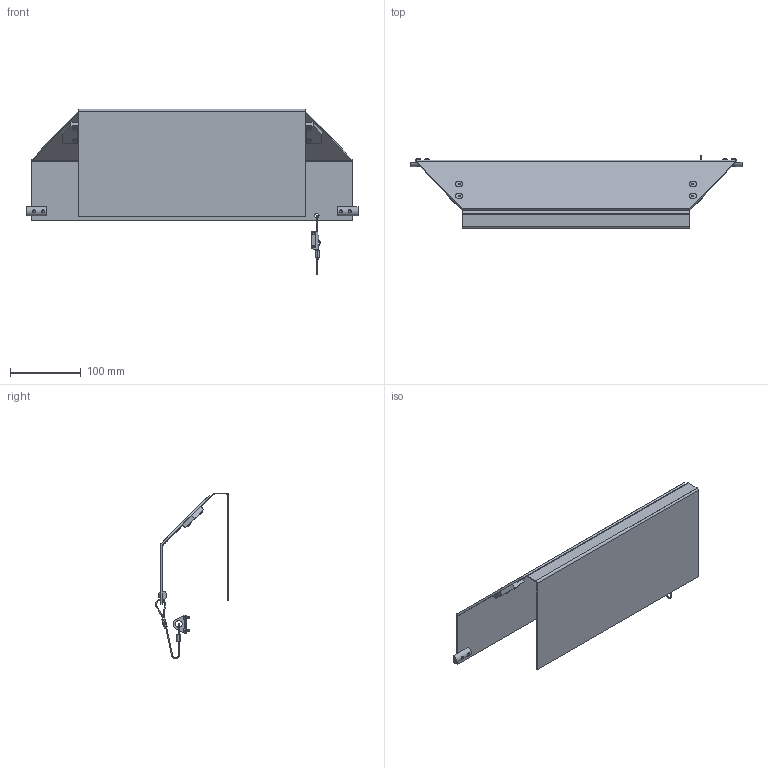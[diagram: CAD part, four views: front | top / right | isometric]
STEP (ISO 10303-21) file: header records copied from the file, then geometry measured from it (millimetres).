
FILE_DESCRIPTION((''),'2;1');
FILE_NAME('301343_ASM','2023-03-03T',('jenni.wallner'),(''),'PRO/ENGINEER BY PARAMETRIC TECHNOLOGY CORPORATION, 2012420','PRO/ENGINEER BY PARAMETRIC TECHNOLOGY CORPORATION, 2012420','');
FILE_SCHEMA(('CONFIG_CONTROL_DESIGN'));
Length unit declared in the file: inch
Products named in the file (11): 301289; 301298; 300774M; 300741M; 910408M; 930510M; 807-1086; 804-506; 807-1085; 920306M; 301343_ASM
Assembly tree (20 placements, depth 2):
  301343_ASM
    301289
    301298
    300774M  x2
    300741M  x2
    910408M  x4
    930510M  x4
    807-1086
    804-506
    807-1085  x2
    920306M  x2
Bounding box: 470.1 x 103.44 x 234.74 mm (x, y, z)
Volume: 327559.8 mm3; surface area: 347867.3 mm2
Topology: 20 solids, 28 shells, 400 faces, 944 edges, 596 vertices
Faces by surface type: plane 179, cylinder 141, cone 56, torus 14, bspline 10
Entity records: 7320 total; most frequent: CARTESIAN_POINT 1446, DIRECTION 1278, ORIENTED_EDGE 1080, EDGE_CURVE 548, AXIS2_PLACEMENT_3D 490, VERTEX_POINT 342, VECTOR 298, LINE 298
